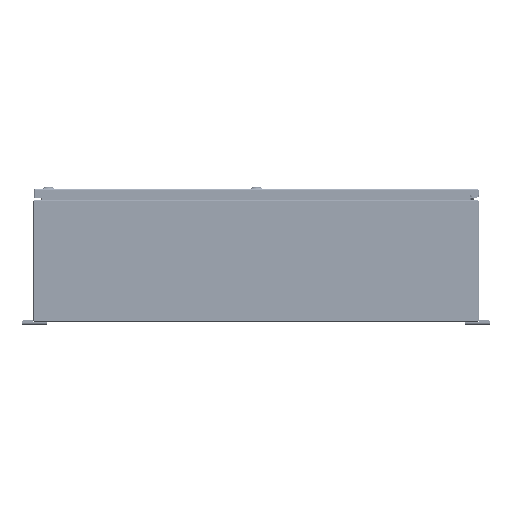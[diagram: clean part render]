
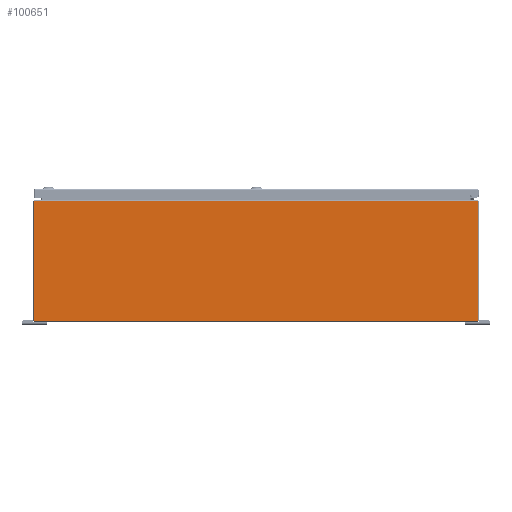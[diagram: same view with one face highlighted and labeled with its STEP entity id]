
A CAD part, left-side view. The second image highlights one B-rep face of the part: STEP entity #100651.
In plain terms, the highlighted planar face has unit normal (-1, 0, 0).
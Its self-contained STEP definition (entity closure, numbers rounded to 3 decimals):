
#5890=PLANE('',#107928);
#8525=LINE('',#144285,#16553);
#8526=LINE('',#144289,#16554);
#8527=LINE('',#144291,#16555);
#8528=LINE('',#144293,#16556);
#8529=LINE('',#144295,#16557);
#8530=LINE('',#144296,#16558);
#16553=VECTOR('',#117492,0.394);
#16554=VECTOR('',#117497,0.394);
#16555=VECTOR('',#117498,0.394);
#16556=VECTOR('',#117499,0.394);
#16557=VECTOR('',#117500,0.394);
#16558=VECTOR('',#117501,0.394);
#26186=FACE_OUTER_BOUND('',#32176,.T.);
#32176=EDGE_LOOP('',(#68576,#68577,#68578,#68579,#68580,#68581));
#42888=VERTEX_POINT('',#144267);
#42895=VERTEX_POINT('',#144284);
#42896=VERTEX_POINT('',#144288);
#42897=VERTEX_POINT('',#144290);
#42898=VERTEX_POINT('',#144292);
#42899=VERTEX_POINT('',#144294);
#52887=EDGE_CURVE('',#42888,#42895,#8525,.T.);
#52889=EDGE_CURVE('',#42896,#42888,#8526,.T.);
#52890=EDGE_CURVE('',#42896,#42897,#8527,.T.);
#52891=EDGE_CURVE('',#42898,#42897,#8528,.T.);
#52892=EDGE_CURVE('',#42899,#42898,#8529,.T.);
#52893=EDGE_CURVE('',#42899,#42895,#8530,.T.);
#68576=ORIENTED_EDGE('',*,*,#52889,.F.);
#68577=ORIENTED_EDGE('',*,*,#52890,.T.);
#68578=ORIENTED_EDGE('',*,*,#52891,.F.);
#68579=ORIENTED_EDGE('',*,*,#52892,.F.);
#68580=ORIENTED_EDGE('',*,*,#52893,.T.);
#68581=ORIENTED_EDGE('',*,*,#52887,.F.);
#100651=ADVANCED_FACE('',(#26186),#5890,.F.);
#107928=AXIS2_PLACEMENT_3D('',#144287,#117495,#117496);
#117492=DIRECTION('',(0.,0.,-1.));
#117495=DIRECTION('center_axis',(1.,0.,0.));
#117496=DIRECTION('ref_axis',(0.,0.,-1.));
#117497=DIRECTION('',(0.,-1.,0.));
#117498=DIRECTION('',(0.,1.,0.));
#117499=DIRECTION('',(0.,-1.,0.));
#117500=DIRECTION('',(0.,0.,1.));
#117501=DIRECTION('',(0.,-1.,0.));
#144267=CARTESIAN_POINT('',(-30.,-21.901,11.901));
#144284=CARTESIAN_POINT('',(-30.,-21.901,0.099));
#144285=CARTESIAN_POINT('',(-30.,-21.901,6.));
#144287=CARTESIAN_POINT('Origin',(-30.,0.,6.));
#144288=CARTESIAN_POINT('',(-30.,-21.126,11.901));
#144289=CARTESIAN_POINT('',(-30.,-10.975,11.901));
#144290=CARTESIAN_POINT('',(-30.,21.126,11.901));
#144291=CARTESIAN_POINT('',(-30.,10.955,11.901));
#144292=CARTESIAN_POINT('',(-30.,21.901,11.901));
#144293=CARTESIAN_POINT('',(-30.,-10.975,11.901));
#144294=CARTESIAN_POINT('',(-30.,21.901,0.099));
#144295=CARTESIAN_POINT('',(-30.,21.901,6.));
#144296=CARTESIAN_POINT('',(-30.,11.,0.099));
